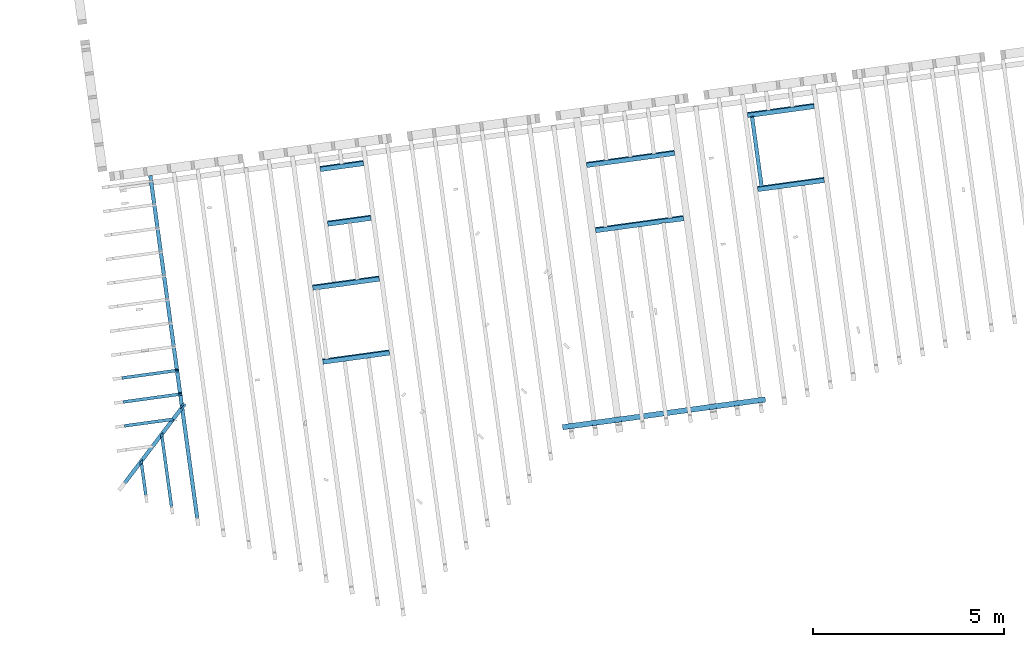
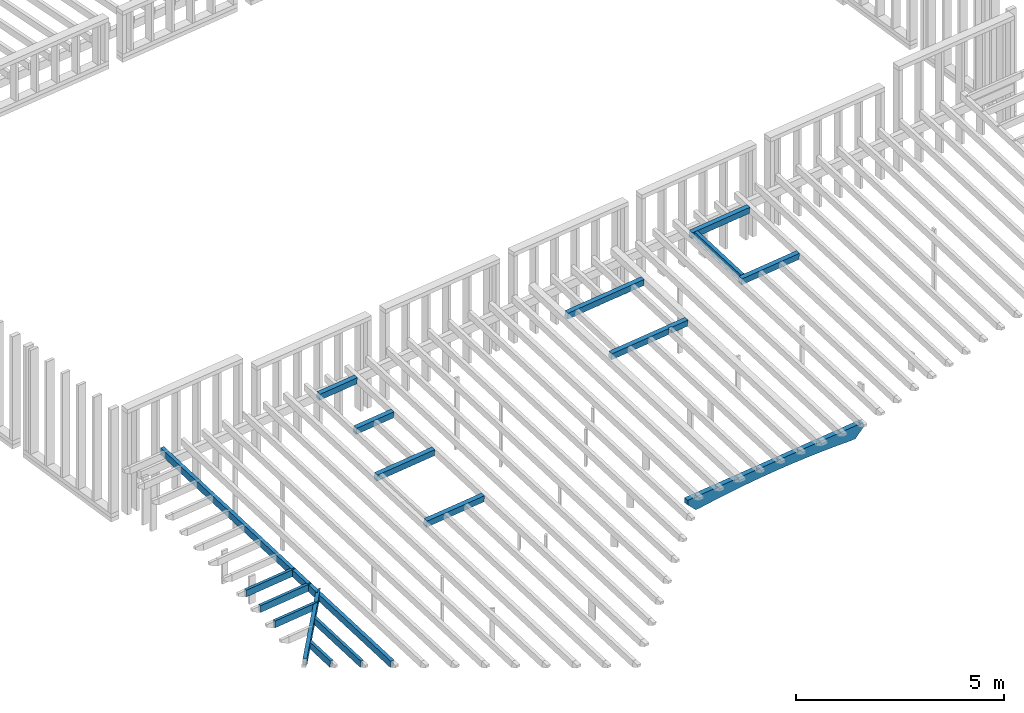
# One storey, part 6 of 16: 9 beams, 7 building element parts, 1 slab, 7 elements without a shape of their own.
"""IFC2X3 building model written with IfcOpenShell, lengths in metres."""

from ifc_helpers import new_model, entity, si_unit, converted_unit, derived_unit, money_unit, direction, frame, frame_2d, origin_with_axes, place, context, subcontext, project, spatial, rectangle, extrude, boolean, faceted_brep, material, type_object, element, aggregate, save


model = new_model("IFC2X3")

# Units and contexts
model_context = context("Model", 3, precision=1e-05, world=origin_with_axes(), true_north=direction((0.0, 1.0)))
body_context = subcontext(model_context, "Body", "Model", "MODEL_VIEW")
ifc_project = project(units=[si_unit("LENGTHUNIT", "METRE"), si_unit("AREAUNIT", "SQUARE_METRE"), si_unit("VOLUMEUNIT", "CUBIC_METRE"), converted_unit("PLANEANGLEUNIT", "DEGREE", entity("IfcPlaneAngleMeasure", 0.0174532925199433), si_unit("PLANEANGLEUNIT", "RADIAN"), dimensions=[0, 0, 0, 0, 0, 0, 0]), money_unit("EUR"), converted_unit("TIMEUNIT", "Year", entity("IfcTimeMeasure", 31557600.0), si_unit("TIMEUNIT", "SECOND"), dimensions=[0, 0, 1, 0, 0, 0, 0]), si_unit("MASSUNIT", "GRAM", prefix="KILO"), si_unit("THERMODYNAMICTEMPERATUREUNIT", "DEGREE_CELSIUS"), si_unit("LUMINOUSINTENSITYUNIT", "LUMEN"), si_unit("ENERGYUNIT", "JOULE", prefix="MEGA"), derived_unit("THERMALCONDUCTANCEUNIT", [(si_unit("POWERUNIT", "WATT"), 1), (si_unit("LENGTHUNIT", "METRE"), -1), (si_unit("THERMODYNAMICTEMPERATUREUNIT", "KELVIN"), -1)]), derived_unit("SPECIFICHEATCAPACITYUNIT", [(si_unit("ENERGYUNIT", "JOULE"), 1), (si_unit("MASSUNIT", "GRAM", prefix="KILO"), -1), (si_unit("THERMODYNAMICTEMPERATUREUNIT", "KELVIN"), -1)]), derived_unit("MASSDENSITYUNIT", [(si_unit("MASSUNIT", "GRAM", prefix="KILO"), 1), (si_unit("VOLUMEUNIT", "CUBIC_METRE"), -1)])], contexts=[model_context])

# Site, building, storey
site_placement = place(None, origin_with_axes())
site = spatial("IfcSite", under=ifc_project, at=site_placement, Name="Gelände", CompositionType="ELEMENT")
building_placement = place(site_placement, origin_with_axes())
building = spatial("IfcBuilding", under=site, at=building_placement, Name="Gebäude", CompositionType="ELEMENT")
storey_placement = place(building_placement, frame((0.0, 0.0, 3.0), z_axis=(0.0, 0.0, 1.0), x_axis=(1.0, 0.0, 0.0)))
storey = spatial("IfcBuildingStorey", under=building, at=storey_placement, Name="ZG", CompositionType="ELEMENT", Elevation=3.0)

# Beams
ifc_material_1 = material(Name="Holz, Bauholz-hart")
beam_type_1 = type_object("IfcBeamType", Name="Holz, Bauholz-hart 100 x 200", PredefinedType="NOTDEFINED")
beam_1_placement = place(storey_placement, frame((103.7996595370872, -151.2585094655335, 1.480246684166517), z_axis=(0.0, 0.0, 1.0), x_axis=(0.9907484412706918, 0.1357111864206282, 0.0)))
element("IfcBeam", 1, at=beam_1_placement, inside=storey, type_object=beam_type_1, material=ifc_material_1, Name="Unterzug-034", context=body_context, shape_type="CSG", body=[
    boolean("DIFFERENCE", extrude(rectangle(XDim=0.2, YDim=0.1, at=frame_2d((-0.1, 0.0), x_axis=(1.0, 0.0))), frame((0.0, 0.0, 0.0), z_axis=(0.0, 0.9902680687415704, 0.1391731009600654), x_axis=(0.0, -0.1391731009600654, 0.9902680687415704)), (0.0, 0.0, 1.0), 1.84999999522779), faceted_brep([(-0.05000000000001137, 1.831995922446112, 0.2574702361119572), (0.04999999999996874, 1.831995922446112, 0.2574702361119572), (0.04999999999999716, 1.85983054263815, 0.05941662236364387), (-0.05000000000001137, 1.85983054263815, 0.05941662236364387), (0.04999999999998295, 1.85978054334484, 0.05940959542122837), (-0.05000000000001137, 1.85978054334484, 0.05940959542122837)], [[[0, 1, 2, 3]], [[4, 1, 0, 5]], [[1, 4, 2]], [[4, 5, 3, 2]], [[5, 0, 3]]])),
])
beam_type_2 = type_object("IfcBeamType", Name="Holz, Bauholz-hart 120 x 200", PredefinedType="NOTDEFINED")
beam_2_placement = place(storey_placement, frame((99.45928698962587, -152.4077052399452, 1.403015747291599), z_axis=(0.0, 0.0, 1.0), x_axis=(0.1357111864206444, -0.9907484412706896, 0.0)))
element("IfcBeam", 2, at=beam_2_placement, inside=storey, type_object=beam_type_2, material=ifc_material_1, Name="Unterzug-034", context=body_context, shape_type="Brep", body=[
    faceted_brep([(0.05941642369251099, 1.735000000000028, -0.008351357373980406), (0.03267728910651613, 1.735000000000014, -0.004593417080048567), (0.03267728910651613, 1.835000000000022, -0.004593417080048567), (0.05941642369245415, 1.835000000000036, -0.008351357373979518), (0.05941652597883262, 2.32000000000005, -0.008350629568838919), (-0.05941652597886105, 2.32000000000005, 0.008350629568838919), (-0.05941652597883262, 0.0, 0.008350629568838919), (0.05941652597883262, 0.0, -0.008350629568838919), (0.004842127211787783, 1.735000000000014, -0.2026469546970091), (0.03158121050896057, 1.735000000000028, -0.2064048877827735), (0.004842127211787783, 1.835000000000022, -0.2026469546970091), (0.03158121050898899, 1.835000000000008, -0.2064048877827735), (0.03158131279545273, 2.320000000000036, -0.2064041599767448), (-0.08725173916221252, 2.320000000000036, -0.189702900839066), (-0.08725173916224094, 0.0, -0.189702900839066), (0.03158131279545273, 0.0, -0.2064041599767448)], [[[0, 1, 2, 3, 4, 5, 6, 7]], [[8, 1, 0, 9]], [[10, 2, 1, 8]], [[10, 11, 3, 2]], [[4, 3, 11, 12]], [[4, 12, 13, 5]], [[14, 6, 5, 13]], [[7, 6, 14, 15]], [[15, 9, 0, 7]], [[10, 8, 9, 15, 14, 13, 12, 11]]]),
])
beam_3_placement = place(storey_placement, frame((99.22561285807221, -150.701786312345, 1.645006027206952), z_axis=(0.0, 0.0, 1.0), x_axis=(0.1357111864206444, -0.9907484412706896, 0.0)))
element("IfcBeam", 3, at=beam_3_placement, inside=storey, type_object=beam_type_2, material=ifc_material_1, Name="Unterzug-034", context=body_context, shape_type="Brep", body=[
    faceted_brep([(-0.08725285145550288, 0.0, -0.1897027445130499), (-0.08725285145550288, 2.320000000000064, -0.1897027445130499), (0.03158242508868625, 2.320000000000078, -0.2064043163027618), (0.03158242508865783, 0.0, -0.2064043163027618), (-0.05941763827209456, 0.0, 0.008350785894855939), (-0.05941763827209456, 2.320000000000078, 0.008350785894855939), (0.05941763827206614, 2.320000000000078, -0.008350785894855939), (0.05941763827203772, 0.0, -0.008350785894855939)], [[[0, 1, 2, 3]], [[4, 5, 1, 0]], [[2, 1, 5, 6]], [[3, 2, 6, 7]], [[4, 0, 3, 7]], [[7, 6, 5, 4]]]),
])
beam_4_placement = place(storey_placement, frame((103.6381307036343, -151.3406074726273, 1.471895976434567), z_axis=(0.0, 0.0, 1.0), x_axis=(0.1357111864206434, -0.9907484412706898, 0.0)))
element("IfcBeam", 4, at=beam_4_placement, inside=storey, type_object=beam_type_2, material=ifc_material_1, Name="Unterzug-034", context=body_context, shape_type="Brep", body=[
    faceted_brep([(-0.05941708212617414, 1.815000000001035, 0.00835070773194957), (-0.05941709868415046, 0.05999999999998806, 0.008350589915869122), (0.05941711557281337, 0.05999999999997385, -0.00835046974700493), (0.05941708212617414, 1.815000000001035, -0.00835070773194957), (-0.08725229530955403, 1.815000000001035, -0.1897028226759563), (-0.08725231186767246, 0.05999999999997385, -0.1897029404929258), (0.03158190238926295, 0.05999999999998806, -0.2064040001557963), (0.03158186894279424, 1.815000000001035, -0.2064042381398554)], [[[0, 1, 2, 3]], [[4, 5, 1, 0]], [[5, 6, 2, 1]], [[3, 2, 6, 7]], [[0, 3, 7, 4]], [[7, 6, 5, 4]]]),
])
beam_5_placement = place(storey_placement, frame((92.32973204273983, -155.8444486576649, 1.060462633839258), z_axis=(0.0, 0.0, 1.0), x_axis=(0.1357111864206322, -0.9907484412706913, 0.0)))
element("IfcBeam", 5, at=beam_5_placement, inside=storey, type_object=beam_type_2, material=ifc_material_1, Name="Unterzug-034", context=body_context, shape_type="Brep", body=[
    faceted_brep([(-0.08725154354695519, 0.0, -0.1897029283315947), (-0.08725154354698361, 1.75499989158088, -0.1897029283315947), (0.03158111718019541, 1.75499989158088, -0.2064041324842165), (0.03158111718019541, 0.0, -0.2064041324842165), (-0.0594163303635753, 0.0, 0.008350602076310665), (-0.0594163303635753, 1.75499989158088, 0.008350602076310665), (0.05941633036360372, 1.75499989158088, -0.008350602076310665), (0.05941633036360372, 0.0, -0.008350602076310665)], [[[0, 1, 2, 3]], [[4, 5, 1, 0]], [[2, 1, 5, 6]], [[3, 2, 6, 7]], [[4, 0, 3, 7]], [[7, 6, 5, 4]]]),
])
beam_6_placement = place(storey_placement, frame((92.06498258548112, -153.9116668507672, 1.334634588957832), z_axis=(0.0, 0.0, 1.0), x_axis=(0.1357111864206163, -0.9907484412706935, 0.0)))
element("IfcBeam", 6, at=beam_6_placement, inside=storey, type_object=beam_type_2, material=ifc_material_1, Name="Unterzug-034", context=body_context, shape_type="Brep", body=[
    faceted_brep([(-0.08725304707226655, 0.0, -0.1897027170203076), (-0.08725304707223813, 1.754999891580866, -0.1897027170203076), (0.03158262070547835, 1.75499989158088, -0.2064043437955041), (0.03158262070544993, 0.0, -0.2064043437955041), (-0.05941783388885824, 0.0, 0.008350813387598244), (-0.05941783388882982, 1.75499989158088, 0.008350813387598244), (0.05941783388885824, 1.754999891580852, -0.008350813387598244), (0.05941783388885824, 0.0, -0.008350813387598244)], [[[0, 1, 2, 3]], [[4, 5, 1, 0]], [[2, 1, 5, 6]], [[3, 2, 6, 7]], [[4, 0, 3, 7]], [[7, 6, 5, 4]]]),
])
beam_7_placement = place(storey_placement, frame((92.45649000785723, -152.2381527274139, 1.560186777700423), z_axis=(0.0, 0.0, 1.0), x_axis=(0.135711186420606, -0.990748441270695, 0.0)))
element("IfcBeam", 7, at=beam_7_placement, inside=storey, type_object=beam_type_2, material=ifc_material_1, Name="Unterzug-034", context=body_context, shape_type="Brep", body=[
    faceted_brep([(-0.08725193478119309, 0.0, -0.1897028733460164), (-0.08725193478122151, 1.140000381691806, -0.1897028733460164), (0.03158150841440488, 1.140000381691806, -0.2064041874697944), (0.03158150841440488, 0.0, -0.2064041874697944), (-0.05941672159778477, 0.0, 0.008350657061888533), (-0.05941672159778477, 1.140000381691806, 0.008350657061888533), (0.05941672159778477, 1.140000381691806, -0.008350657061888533), (0.05941672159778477, 0.0, -0.008350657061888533)], [[[0, 1, 2, 3]], [[4, 5, 1, 0]], [[2, 1, 5, 6]], [[3, 2, 6, 7]], [[4, 0, 3, 7]], [[7, 6, 5, 4]]]),
])
beam_8_placement = place(storey_placement, frame((92.2605480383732, -150.807697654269, 1.763103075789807), z_axis=(0.0, 0.0, 1.0), x_axis=(0.135711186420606, -0.990748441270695, 0.0)))
element("IfcBeam", 8, at=beam_8_placement, inside=storey, type_object=beam_type_2, material=ifc_material_1, Name="Unterzug-034", context=body_context, shape_type="Brep", body=[
    faceted_brep([(-0.08725265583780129, 0.0, -0.189702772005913), (-0.0872526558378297, 1.140000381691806, -0.189702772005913), (0.03158222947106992, 1.140000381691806, -0.2064042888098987), (0.03158222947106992, 0.0, -0.2064042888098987), (-0.05941744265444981, 0.0, 0.008350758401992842), (-0.05941744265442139, 1.140000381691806, 0.008350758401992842), (0.05941744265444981, 1.140000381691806, -0.008350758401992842), (0.05941744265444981, 0.0, -0.008350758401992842)], [[[0, 1, 2, 3]], [[4, 5, 1, 0]], [[2, 1, 5, 6]], [[3, 2, 6, 7]], [[4, 0, 3, 7]], [[7, 6, 5, 4]]]),
])
beam_9_placement = place(storey_placement, frame((103.4328261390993, -149.3996828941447, 1.746067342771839), z_axis=(0.0, 0.0, 1.0), x_axis=(0.1357111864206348, -0.990748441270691, 0.0)))
element("IfcBeam", 9, at=beam_9_placement, inside=storey, type_object=beam_type_2, material=ifc_material_1, Name="Unterzug-034", context=body_context, shape_type="Brep", body=[
    faceted_brep([(0.03158186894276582, 0.0, -0.2064042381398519), (-0.08725229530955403, 0.0, -0.1897028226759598), (-0.08725229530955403, 1.755000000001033, -0.1897028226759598), (0.03158186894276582, 1.755000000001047, -0.2064042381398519), (0.05941708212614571, 0.0, -0.008350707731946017), (-0.05941708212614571, 0.0, 0.008350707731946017), (-0.05941708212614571, 1.755000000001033, 0.008350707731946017), (0.05941708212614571, 1.755000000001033, -0.008350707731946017)], [[[0, 1, 2, 3]], [[4, 5, 1, 0]], [[1, 5, 6, 2]], [[7, 3, 2, 6]], [[4, 0, 3, 7]], [[5, 4, 7, 6]]]),
])

# Slab
ifc_material_2 = material(Name="Holz, Brettschichtholz")
slab_type = type_object("IfcSlabType", Name="Holz, Brettschichtholz", PredefinedType="ROOF")
slab_placement = place(storey_placement, frame((98.82326213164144, -157.4467770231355, 0.1315370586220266), z_axis=(0.1357111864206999, -0.9907484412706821, 0.0), x_axis=(0.9815824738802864, 0.1344556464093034, -0.1357111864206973)))
element("IfcSlab", 10, at=slab_placement, inside=storey, type_object=slab_type, material=ifc_material_2, Name="Schale-002", PredefinedType="ROOF", context=body_context, shape_type="Brep", body=[
    faceted_brep([(4.925948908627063, 1.058297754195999, 6.742209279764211e-08), (4.925948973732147, 1.058297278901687, 0.1400000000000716), (5.012955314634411, 1.070215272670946, 0.1400000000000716), (5.012955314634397, 1.070215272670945, 0.0), (4.928619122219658, 1.038804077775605, 0.1400000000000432), (4.829544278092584, 1.025232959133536, 0.1400000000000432), (4.826874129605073, 1.04472616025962, 0.1400000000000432), (4.316638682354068, 0.974834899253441, 0.1400000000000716), (4.319308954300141, 0.9553407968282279, 0.1400000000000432), (4.200419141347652, 0.9390554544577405, 0.1400000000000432), (4.197748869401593, 0.9585495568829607, 0.1400000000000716), (3.727143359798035, 0.8940867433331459, 0.1400000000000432), (3.729813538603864, 0.8745933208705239, 0.1400000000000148), (3.551478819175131, 0.8501653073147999, 0.1400000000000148), (3.548808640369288, 0.8696587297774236, 0.1400000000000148), (3.068295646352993, 0.8038388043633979, 0.1400000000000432), (3.070965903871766, 0.7843448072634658, 0.1400000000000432), (2.971891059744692, 0.7707736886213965, 0.1400000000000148), (2.969220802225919, 0.7902676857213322, 0.1400000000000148), (2.44907787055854, 0.7190193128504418, 0.1400000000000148), (2.451748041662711, 0.6995259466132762, 0.1400000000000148), (2.352673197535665, 0.6859548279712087, 0.1400000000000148), (2.350003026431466, 0.7054481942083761, 0.1400000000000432), (1.829860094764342, 0.6341998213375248, 0.1400000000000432), (1.832530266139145, 0.6147064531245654, 0.1400000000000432), (1.733455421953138, 0.6011353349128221, 0.1400000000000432), (1.730785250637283, 0.6206287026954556, 0.1400000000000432), (1.250272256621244, 0.5548087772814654, 0.1400000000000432), (1.252942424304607, 0.5353154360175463, 0.1400000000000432), (1.074607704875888, 0.5108874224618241, 0.1400000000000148), (1.071937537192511, 0.5303807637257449, 0.1400000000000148), (0.6013320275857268, 0.4659179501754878, 0.1400000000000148), (0.6040021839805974, 0.4464246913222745, 0.1400000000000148), (0.4851123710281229, 0.4301393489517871, 0.1400000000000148), (0.4824422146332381, 0.4496326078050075, 0.1400000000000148), (-0.01788576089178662, 0.3810984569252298, 0.1400000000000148), (-0.01521561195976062, 0.3616052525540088, 0.1400000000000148), (-0.1341054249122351, 0.3453199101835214, 0.1400000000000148), (-0.1367755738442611, 0.3648131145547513, 0.1400000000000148), (-0.2893498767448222, 0.3439137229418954, 0.1400000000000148), (-0.2703503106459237, 0.2052089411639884, 0.1400000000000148), (0.0, 0.0, 0.1400000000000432), (0.1387047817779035, 0.01899956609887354, 0.1400000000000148), (0.4192695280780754, 0.08107580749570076, 0.1400000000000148), (0.7004931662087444, 0.1400953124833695, 0.1400000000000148), (0.9823423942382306, 0.1960510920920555, 0.1400000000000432), (1.264783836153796, 0.2489365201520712, 0.1400000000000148), (1.547784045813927, 0.2987453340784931, 0.1400000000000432), (1.831309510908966, 0.3454716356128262, 0.1400000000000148), (2.115326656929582, 0.3891098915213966, 0.1400000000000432), (2.39980185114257, 0.4296549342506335, 0.1400000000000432), (2.684701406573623, 0.4671019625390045, 0.1400000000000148), (2.969991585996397, 0.5014465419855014, 0.1400000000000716), (3.255638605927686, 0.5326846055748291, 0.1400000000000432), (3.541608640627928, 0.5608124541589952, 0.1400000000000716), (3.827867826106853, 0.5858267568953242, 0.1400000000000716), (4.114382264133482, 0.6077245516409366, 0.1400000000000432), (4.401118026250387, 0.6265032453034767, 0.1400000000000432), (4.688041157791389, 0.6421606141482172, 0.1400000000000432), (4.826745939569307, 0.6611601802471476, 0.1400000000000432), (5.031954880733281, 0.9315104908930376, 0.1400000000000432), (5.031954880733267, 0.9315104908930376, 0.0), (4.826874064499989, 1.044726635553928, 6.742206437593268e-08), (4.826745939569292, 0.6611601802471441, 0.0), (4.688041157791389, 0.6421606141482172, 0.0), (4.401118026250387, 0.6265032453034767, 0.0), (4.114382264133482, 0.6077245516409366, 0.0), (3.827867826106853, 0.5858267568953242, 0.0), (3.541608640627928, 0.5608124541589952, 0.0), (3.255638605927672, 0.5326846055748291, 0.0), (2.969991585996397, 0.5014465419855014, 0.0), (2.684701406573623, 0.4671019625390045, 0.0), (2.39980185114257, 0.4296549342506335, 0.0), (2.115326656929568, 0.3891098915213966, 0.0), (1.831309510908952, 0.3454716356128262, 0.0), (1.547784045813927, 0.2987453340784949, 0.0), (1.264783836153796, 0.2489365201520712, 0.0), (0.9823423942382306, 0.1960510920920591, 0.0), (0.7004931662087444, 0.1400953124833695, 0.0), (0.4192695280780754, 0.08107580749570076, 0.0), (0.1387047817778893, 0.01899956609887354, 0.0), (0.0, 0.0, 0.0), (-0.270350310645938, 0.2052089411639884, 0.0), (-0.2893498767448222, 0.3439137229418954, 0.0), (-0.1367756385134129, 0.3648135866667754, 6.697061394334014e-08), (-0.01788582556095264, 0.3810989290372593, 6.697061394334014e-08), (0.482442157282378, 0.449633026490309, 5.939185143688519e-08), (0.6013319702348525, 0.4659183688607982, 5.939185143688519e-08), (1.071937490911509, 0.5303811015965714, 4.792809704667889e-08), (1.250272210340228, 0.5548091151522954, 4.792809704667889e-08), (1.730785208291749, 0.6206290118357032, 4.38525660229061e-08), (1.829860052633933, 0.6342001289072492, 4.362976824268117e-08), (2.350002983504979, 0.7054485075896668, 4.445416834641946e-08), (2.449077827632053, 0.7190196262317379, 4.445416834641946e-08), (2.969220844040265, 0.7902673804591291, -4.330237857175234e-08), (3.068295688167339, 0.8038384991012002, -4.330240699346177e-08), (3.54880860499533, 0.8696589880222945, 3.663288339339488e-08), (3.727143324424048, 0.8940870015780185, 3.663291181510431e-08), (4.197748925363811, 0.9585491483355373, -5.795371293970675e-08), (4.316638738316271, 0.9748344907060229, -5.795371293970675e-08)], [[[0, 1, 2, 3]], [[4, 1, 0]], [[5, 6, 7, 8, 9, 10, 11, 12, 13, 14, 15, 16, 17, 18, 19, 20, 21, 22, 23, 24, 25, 26, 27, 28, 29, 30, 31, 32, 33, 34, 35, 36, 37, 38, 39, 40, 41, 42, 43, 44, 45, 46, 47, 48, 49, 50, 51, 52, 53, 54, 55, 56, 57, 58, 59, 60, 2, 1, 4]], [[2, 60, 61, 3]], [[62, 0, 3, 61, 63, 64, 65, 66, 67, 68, 69, 70, 71, 72, 73, 74, 75, 76, 77, 78, 79, 80, 81, 82, 83, 84, 85, 86, 87, 88, 89, 90, 91, 92, 93, 94, 95, 96, 97, 98, 99]], [[5, 4, 0, 62]], [[62, 6, 5]], [[6, 62, 99, 7]], [[99, 8, 7]], [[98, 9, 8, 99]], [[9, 98, 10]], [[11, 10, 98, 97]], [[11, 97, 12]], [[97, 96, 13, 12]], [[14, 13, 96]], [[95, 15, 14, 96]], [[16, 15, 95]], [[16, 95, 94, 17]], [[94, 18, 17]], [[94, 93, 19, 18]], [[93, 20, 19]], [[21, 20, 93, 92]], [[21, 92, 22]], [[22, 92, 91, 23]], [[23, 91, 24]], [[90, 25, 24, 91]], [[26, 25, 90]], [[27, 26, 90, 89]], [[28, 27, 89]], [[89, 88, 29, 28]], [[88, 30, 29]], [[87, 31, 30, 88]], [[87, 32, 31]], [[32, 87, 86, 33]], [[33, 86, 34]], [[86, 85, 35, 34]], [[35, 85, 36]], [[37, 36, 85, 84]], [[38, 37, 84]], [[38, 84, 83, 39]], [[39, 83, 82, 40]], [[82, 81, 41, 40]], [[41, 81, 80, 42]], [[42, 80, 79, 43]], [[43, 79, 78, 44]], [[44, 78, 77, 45]], [[45, 77, 76, 46]], [[46, 76, 75, 47]], [[47, 75, 74, 48]], [[48, 74, 73, 49]], [[49, 73, 72, 50]], [[50, 72, 71, 51]], [[51, 71, 70, 52]], [[52, 70, 69, 53]], [[53, 69, 68, 54]], [[54, 68, 67, 55]], [[55, 67, 66, 56]], [[56, 66, 65, 57]], [[57, 65, 64, 58]], [[58, 64, 63, 59]], [[59, 63, 61, 60]]]),
])

# Beam, building element part
beam_type_3 = type_object("IfcBeamType", Name="Verschiedene Strukturen - 2 Segmente - 100 x 200 x 9325 (183+9143)", PredefinedType="NOTDEFINED")
beam_10_placement = place(storey_placement, frame((89.06974402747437, -160.11949770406, 0.5273802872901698), z_axis=(0.0, 0.0, 1.0), x_axis=(0.9907484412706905, 0.1357111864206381, 0.0)))
beam_10 = element("IfcBeam", 11, at=beam_10_placement, inside=storey, type_object=beam_type_3, Name="Unterzug-034")
building_element_part_1_placement = place(beam_10_placement, origin_with_axes())
building_element_part_1 = element("IfcBuildingElementPart", 12, at=building_element_part_1_placement, material=ifc_material_1, Name="Holz, Bauholz-hart", context=body_context, shape_type="Brep", body=[
    faceted_brep([(-0.05000000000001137, 0.2085613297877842, -0.1726541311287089), (-0.05000000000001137, 9.234455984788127, 1.095852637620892), (0.04999999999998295, 9.234455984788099, 1.095852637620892), (0.04999999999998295, 0.2085613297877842, -0.1726541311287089), (-0.05000000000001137, 0.1807267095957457, 0.02539948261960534), (-0.05000000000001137, 9.234455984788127, 1.297818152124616), (0.04999999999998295, 9.234455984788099, 1.297818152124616), (0.04999999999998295, 0.1807267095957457, 0.02539948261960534)], [[[0, 1, 2, 3]], [[4, 5, 1, 0]], [[2, 1, 5, 6]], [[3, 2, 6, 7]], [[4, 0, 3, 7]], [[7, 6, 5, 4]]]),
])
aggregate(beam_10, [building_element_part_1])

beam_type_4 = type_object("IfcBeamType", Name="Verschiedene Strukturen - 2 Segmente - 80 x 200 x 1794 (240+1554)", PredefinedType="NOTDEFINED")
beam_11_placement = place(storey_placement, frame((86.87074486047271, -156.9196362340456, 1.014872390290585), z_axis=(0.0, 0.0, 1.0), x_axis=(0.135711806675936, -0.990748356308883, 0.0)))
beam_11 = element("IfcBeam", 13, at=beam_11_placement, inside=storey, type_object=beam_type_4, Name="Unterzug-034")
building_element_part_2_placement = place(beam_11_placement, origin_with_axes())
building_element_part_2 = element("IfcBuildingElementPart", 14, at=building_element_part_2_placement, material=ifc_material_1, Name="Holz, Bauholz-hart", context=body_context, shape_type="Brep", body=[
    faceted_brep([(0.04000000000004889, 0.2400000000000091, -0.2000000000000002), (0.04000000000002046, 1.694397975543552, -0.2000000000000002), (0.04000000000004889, 1.694397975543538, -0.0056214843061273), (0.03999999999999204, 1.794397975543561, -0.005621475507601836), (0.04000000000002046, 1.794398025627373, 0.0), (0.04000000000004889, 0.2400000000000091, 0.0), (-0.01398423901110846, 1.794398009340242, -0.1999999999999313), (-0.01398430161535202, 1.694398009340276, -0.2000000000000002), (-0.03999999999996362, 0.2399999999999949, -0.2000000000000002), (-0.03999999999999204, 1.794398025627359, -0.2000000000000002), (1.060773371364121e-06, 1.694398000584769, 0.0), (-0.03999999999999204, 1.694398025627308, -0.1963437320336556), (-0.03999999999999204, 1.694398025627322, 0.0), (1.123378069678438e-06, 1.794398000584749, 0.0), (-0.03999999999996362, 0.2399999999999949, 0.0), (-0.03999999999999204, 1.794398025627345, -0.1963437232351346)], [[[0, 1, 2, 3, 4, 5]], [[6, 7, 1, 0, 8, 9]], [[10, 2, 1, 7, 11, 12]], [[10, 13, 3, 2]], [[4, 3, 13]], [[13, 10, 12, 14, 5, 4]], [[0, 5, 14, 8]], [[11, 7, 6, 15]], [[12, 11, 15, 9, 8, 14]], [[9, 15, 6]]]),
])
aggregate(beam_11, [building_element_part_2])

beam_type_5 = type_object("IfcBeamType", Name="Verschiedene Strukturen - 2 Segmente - 80 x 200 x 1630 (240+1390)", PredefinedType="NOTDEFINED")
beam_12_placement = place(storey_placement, frame((86.90633458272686, -157.5455974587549, 0.9270343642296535), z_axis=(0.0, 0.0, 1.0), x_axis=(0.135711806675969, -0.9907483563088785, 0.0)))
beam_12 = element("IfcBeam", 15, at=beam_12_placement, inside=storey, type_object=beam_type_5, Name="Unterzug-034")
building_element_part_3_placement = place(beam_12_placement, origin_with_axes())
building_element_part_3 = element("IfcBuildingElementPart", 16, at=building_element_part_3_placement, material=ifc_material_1, Name="Holz, Bauholz-hart", context=body_context, shape_type="Brep", body=[
    faceted_brep([(0.03999999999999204, 1.63032508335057, -0.0006527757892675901), (0.04000000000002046, 1.550325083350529, -0.0006527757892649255), (0.03535525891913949, 1.554969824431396, 0.0), (0.03535525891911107, 1.63032508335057, 0.0), (0.03999999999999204, 1.408903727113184, -0.2000000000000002), (0.03999999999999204, 1.408903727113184, -0.01059051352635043), (0.03999999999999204, 1.63032508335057, 0.0), (0.04000000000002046, 0.2400000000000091, 0.0), (0.04000000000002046, 0.2400000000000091, -0.2000000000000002), (-0.03535541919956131, 1.484259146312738, 0.0), (-0.03999999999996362, 1.488903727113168, 0.0), (-0.03999999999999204, 0.2399999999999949, 0.0), (-0.03999999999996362, 1.488903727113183, -0.2000000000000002), (-0.03999999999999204, 0.2399999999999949, -0.2000000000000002)], [[[0, 1, 2, 3]], [[4, 5, 1, 0, 6, 7, 8]], [[5, 9, 2, 1]], [[2, 9, 10, 11, 7, 6, 3]], [[3, 6, 0]], [[4, 12, 10, 9, 5]], [[8, 7, 11, 13]], [[13, 12, 4, 8]], [[11, 10, 12, 13]]]),
])
aggregate(beam_12, [building_element_part_3])

beam_type_6 = type_object("IfcBeamType", Name="Verschiedene Strukturen - 2 Segmente - 80 x 200 x 1131 (183+949)", PredefinedType="NOTDEFINED")
beam_13_placement = place(storey_placement, frame((87.72628365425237, -159.5224042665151, 0.6361437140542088), z_axis=(0.0, 0.0, 1.0), x_axis=(0.990748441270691, 0.1357111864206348, 0.0)))
beam_13 = element("IfcBeam", 17, at=beam_13_placement, inside=storey, type_object=beam_type_6, Name="Unterzug-034")
building_element_part_4_placement = place(beam_13_placement, origin_with_axes())
building_element_part_4 = element("IfcBuildingElementPart", 18, at=building_element_part_4_placement, material=ifc_material_1, Name="Holz, Bauholz-hart", context=body_context, shape_type="Brep", body=[
    faceted_brep([(0.04000000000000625, 0.2085613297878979, -0.1726541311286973), (0.04000000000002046, 1.148218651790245, -0.04059390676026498), (0.04000000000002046, 1.0635576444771, -0.04654307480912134), (0.04000000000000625, 1.0635576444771, 0.1494732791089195), (0.04000000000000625, 0.1807267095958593, 0.02539948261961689), (-0.04000000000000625, 0.208561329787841, -0.1726541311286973), (-0.04000000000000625, 1.068218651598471, -0.05183717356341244), (-0.03999999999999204, 0.9835575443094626, -0.05778634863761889), (-0.03999999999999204, 0.9835575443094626, 0.1382299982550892), (-0.03999999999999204, 0.1807267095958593, 0.02539948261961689)], [[[0, 1, 2, 3, 4]], [[5, 6, 1, 0]], [[7, 2, 1, 6]], [[7, 8, 3, 2]], [[4, 3, 8, 9]], [[0, 4, 9, 5]], [[8, 7, 6, 5, 9]]]),
])
aggregate(beam_13, [building_element_part_4])

beam_type_7 = type_object("IfcBeamType", Name="Verschiedene Strukturen - 2 Segmente - 80 x 200 x 1745 (240+1505)", PredefinedType="NOTDEFINED")
beam_14_placement = place(storey_placement, frame((86.83510130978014, -156.2936823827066, 1.102710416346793), z_axis=(0.0, 0.0, 1.0), x_axis=(0.1357118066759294, -0.9907483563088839, 0.0)))
beam_14 = element("IfcBeam", 19, at=beam_14_placement, inside=storey, type_object=beam_type_7, Name="Unterzug-034")
building_element_part_5_placement = place(beam_14_placement, origin_with_axes())
building_element_part_5 = element("IfcBuildingElementPart", 20, at=building_element_part_5_placement, material=ifc_material_1, Name="Holz, Bauholz-hart", context=body_context, shape_type="Brep", body=[
    faceted_brep([(0.04000000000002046, 0.2400000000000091, -0.2000000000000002), (0.03999999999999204, 1.644762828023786, -0.2000000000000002), (0.03999999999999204, 1.644762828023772, -0.005621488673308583), (0.03999999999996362, 1.744762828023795, -0.005621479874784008), (0.04000000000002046, 1.744762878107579, 0.0), (0.04000000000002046, 0.2400000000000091, 0.0), (-0.01398427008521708, 1.744762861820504, -0.1999999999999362), (-0.01398433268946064, 1.644762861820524, -0.2000000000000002), (-0.04000000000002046, 0.2399999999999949, -0.2000000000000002), (-0.04000000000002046, 1.744762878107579, -0.2000000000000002), (1.029699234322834e-06, 1.644762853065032, 0.0), (-0.04000000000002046, 1.644762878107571, -0.1963437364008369), (-0.04000000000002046, 1.644762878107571, 0.0), (1.09230396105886e-06, 1.744762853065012, 0.0), (-0.04000000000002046, 0.2399999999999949, 0.0), (-0.04000000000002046, 1.744762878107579, -0.1963437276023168)], [[[0, 1, 2, 3, 4, 5]], [[6, 7, 1, 0, 8, 9]], [[10, 2, 1, 7, 11, 12]], [[10, 13, 3, 2]], [[4, 3, 13]], [[13, 10, 12, 14, 5, 4]], [[0, 5, 14, 8]], [[11, 7, 6, 15]], [[12, 11, 15, 9, 8, 14]], [[9, 15, 6]]]),
])
aggregate(beam_14, [building_element_part_5])

beam_type_8 = type_object("IfcBeamType", Name="Verschiedene Strukturen - 2 Segmente - 100 x 200 x 2865 (248+2617)", PredefinedType="NOTDEFINED")
beam_15_placement = place(storey_placement, frame((87.00040731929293, -159.1989129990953, 0.6950314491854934), z_axis=(0.0, 0.0, 1.0), x_axis=(0.796527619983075, -0.6046021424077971, 0.0)))
beam_15 = element("IfcBeam", 21, at=beam_15_placement, inside=storey, type_object=beam_type_8, Name="Unterzug-034")
building_element_part_6_placement = place(beam_15_placement, origin_with_axes())
building_element_part_6 = element("IfcBuildingElementPart", 22, at=building_element_part_6_placement, material=ifc_material_1, Name="Holz, Bauholz-hart", context=body_context, shape_type="Brep", body=[
    faceted_brep([(0.04999999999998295, 0.2586016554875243, -0.1752860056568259), (0.04999999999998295, 2.602017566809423, 0.05759652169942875), (0.04999999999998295, 2.602017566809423, 0.2536129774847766), (0.04999999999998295, 2.743439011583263, 0.2676670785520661), (0.04999999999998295, 2.84343913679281, 0.2776048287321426), (0.04999999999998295, 2.84343913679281, 0.2825735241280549), (0.04999999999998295, 0.2388236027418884, 0.0237336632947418), (-0.00986322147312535, 2.803302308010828, 0.07759967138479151), (-0.009863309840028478, 2.661880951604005, 0.06354558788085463), (-0.05000000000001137, 0.2586016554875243, -0.1752860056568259), (-0.04999999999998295, 2.84343913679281, 0.0815883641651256), (-0.00986322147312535, 2.84343913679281, 0.0815883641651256), (1.657108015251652e-06, 2.652015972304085, 0.2635503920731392), (-0.05000000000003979, 2.70201769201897, 0.07152295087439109), (-0.05000000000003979, 2.70201769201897, 0.2685194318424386), (1.745474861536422e-06, 2.793437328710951, 0.2776044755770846), (1.745474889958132e-06, 2.843439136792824, 0.2825735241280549), (-0.05000000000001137, 0.2388236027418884, 0.0237336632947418), (-0.05000000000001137, 2.843439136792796, 0.0855770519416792)], [[[0, 1, 2, 3, 4, 5, 6]], [[7, 8, 1, 0, 9, 10, 11]], [[12, 2, 1, 8, 13, 14]], [[12, 15, 3, 2]], [[4, 3, 15, 16]], [[16, 5, 4]], [[15, 12, 14, 17, 6, 5, 16]], [[0, 6, 17, 9]], [[13, 8, 7, 18]], [[14, 13, 18, 10, 9, 17]], [[11, 10, 18]], [[11, 18, 7]]]),
])
aggregate(beam_15, [building_element_part_6])

beam_type_9 = type_object("IfcBeamType", Name="Verschiedene Strukturen - 2 Segmente - 80 x 200 x 2153 (183+1971)", PredefinedType="NOTDEFINED")
beam_16_placement = place(storey_placement, frame((88.39801465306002, -159.8209513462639, 0.5817619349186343), z_axis=(0.0, 0.0, 1.0), x_axis=(0.9907484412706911, 0.1357111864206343, 0.0)))
beam_16 = element("IfcBeam", 23, at=beam_16_placement, inside=storey, type_object=beam_type_9, Name="Unterzug-034")
building_element_part_7_placement = place(beam_16_placement, origin_with_axes())
building_element_part_7 = element("IfcBuildingElementPart", 24, at=building_element_part_7_placement, material=ifc_material_1, Name="Holz, Bauholz-hart", context=body_context, shape_type="Brep", body=[
    faceted_brep([(0.03999999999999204, 0.2085613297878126, -0.1726541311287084), (0.03999999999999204, 2.160165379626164, 0.1016259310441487), (0.03999999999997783, 2.075505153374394, 0.09567681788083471), (0.03999999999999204, 2.075505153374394, 0.2916932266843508), (0.03999999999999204, 0.1807267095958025, 0.02539948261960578), (-0.04000000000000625, 0.2085613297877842, -0.1726541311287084), (-0.04000000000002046, 2.080165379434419, 0.09038266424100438), (-0.04000000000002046, 1.995505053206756, 0.08443354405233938), (-0.04000000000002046, 1.995505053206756, 0.2804499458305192), (-0.04000000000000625, 0.1807267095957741, 0.02539948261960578)], [[[0, 1, 2, 3, 4]], [[5, 6, 1, 0]], [[7, 2, 1, 6]], [[7, 8, 3, 2]], [[4, 3, 8, 9]], [[0, 4, 9, 5]], [[8, 7, 6, 5, 9]]]),
])
aggregate(beam_16, [building_element_part_7])

save(model, "model.ifc")
